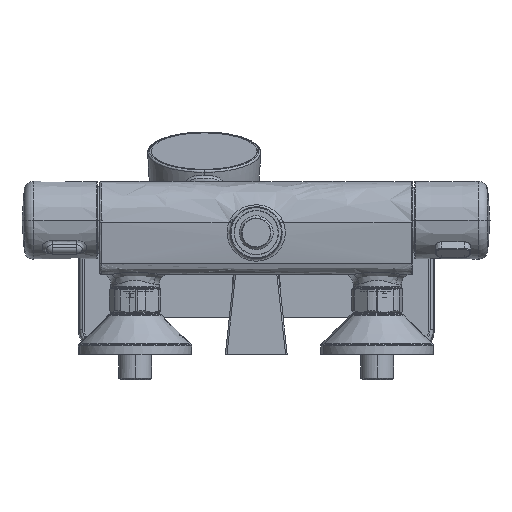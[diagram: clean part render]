
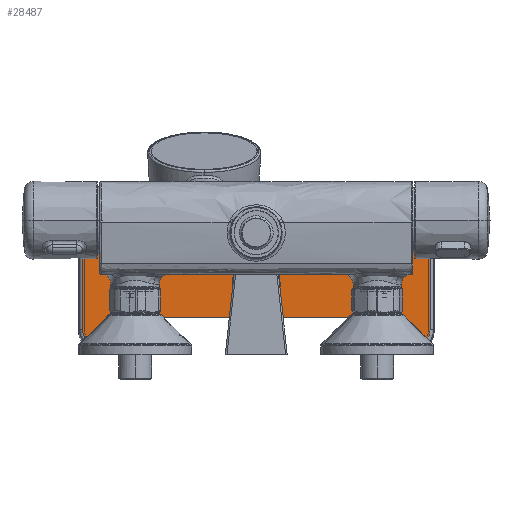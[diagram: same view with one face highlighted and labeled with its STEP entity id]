
A CAD part, front view. The second image highlights one B-rep face of the part: STEP entity #28487.
In plain terms, the highlighted planar face has unit normal (0, -1, 0).
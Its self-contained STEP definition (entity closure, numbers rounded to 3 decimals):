
#72 = VERTEX_POINT ( 'NONE', #19283 ) ;
#150 = DIRECTION ( 'NONE',  ( 0., 0., 1. ) ) ;
#531 = LINE ( 'NONE', #19921, #11348 ) ;
#1433 = VECTOR ( 'NONE', #5516, 1000. ) ;
#1850 = CARTESIAN_POINT ( 'NONE',  ( 460.129, 259.185, -22.505 ) ) ;
#1940 = EDGE_CURVE ( 'NONE', #7709, #11855, #2901, .T. ) ;
#2287 = CARTESIAN_POINT ( 'NONE',  ( 465.099, 259.185, 52.106 ) ) ;
#2572 = LINE ( 'NONE', #13059, #14103 ) ;
#2610 = LINE ( 'NONE', #7628, #5150 ) ;
#2844 = ORIENTED_EDGE ( 'NONE', *, *, #20068, .T. ) ;
#2901 = LINE ( 'NONE', #24344, #27702 ) ;
#3254 = CARTESIAN_POINT ( 'NONE',  ( 261.98, 259.185, 64.104 ) ) ;
#3982 = CARTESIAN_POINT ( 'NONE',  ( 453.101, 259.185, -22.505 ) ) ;
#3999 = CARTESIAN_POINT ( 'NONE',  ( 249.982, 259.185, -25.513 ) ) ;
#4199 = CARTESIAN_POINT ( 'NONE',  ( 261.98, 259.185, -22.505 ) ) ;
#4334 = ORIENTED_EDGE ( 'NONE', *, *, #20610, .T. ) ;
#4712 = CARTESIAN_POINT ( 'NONE',  ( 439.772, 259.185, -10.478 ) ) ;
#5024 = DIRECTION ( 'NONE',  ( 1., 0., 0. ) ) ;
#5150 = VECTOR ( 'NONE', #28643, 1000. ) ;
#5211 = ORIENTED_EDGE ( 'NONE', *, *, #21681, .T. ) ;
#5516 = DIRECTION ( 'NONE',  ( 0., 0., 1. ) ) ;
#5678 = ORIENTED_EDGE ( 'NONE', *, *, #7140, .T. ) ;
#6093 = CIRCLE ( 'NONE', #6314, 7. ) ;
#6136 = DIRECTION ( 'NONE',  ( -1., 0., 0. ) ) ;
#6314 = AXIS2_PLACEMENT_3D ( 'NONE', #28580, #26369, #12602 ) ;
#6518 = CARTESIAN_POINT ( 'NONE',  ( 432.772, 259.185, -3.478 ) ) ;
#7012 = CARTESIAN_POINT ( 'NONE',  ( 282.132, 259.185, -10.478 ) ) ;
#7140 = EDGE_CURVE ( 'NONE', #11855, #14238, #23204, .T. ) ;
#7288 = VECTOR ( 'NONE', #5024, 1000. ) ;
#7518 = VERTEX_POINT ( 'NONE', #28599 ) ;
#7628 = CARTESIAN_POINT ( 'NONE',  ( 439.772, 259.185, -25.513 ) ) ;
#7709 = VERTEX_POINT ( 'NONE', #15243 ) ;
#8005 = ORIENTED_EDGE ( 'NONE', *, *, #10261, .T. ) ;
#8071 =( BOUNDED_CURVE ( )  B_SPLINE_CURVE ( 3, ( #3254, #9917, #12314, #28383 ),
 .UNSPECIFIED., .F., .T. ) 
 B_SPLINE_CURVE_WITH_KNOTS ( ( 4, 4 ),
 ( 2.356, 3.927 ),
 .UNSPECIFIED. ) 
 CURVE ( )  GEOMETRIC_REPRESENTATION_ITEM ( )  RATIONAL_B_SPLINE_CURVE ( ( 1., 0.805, 0.805, 1. ) ) 
 REPRESENTATION_ITEM ( '' )  );
#8359 = ORIENTED_EDGE ( 'NONE', *, *, #23302, .T. ) ;
#8470 = DIRECTION ( 'NONE',  ( 0., 1., 0. ) ) ;
#8593 = FACE_OUTER_BOUND ( 'NONE', #27018, .T. ) ;
#9270 = EDGE_CURVE ( 'NONE', #19687, #20592, #22507, .T. ) ;
#9334 = DIRECTION ( 'NONE',  ( 0., 1., 0. ) ) ;
#9917 = CARTESIAN_POINT ( 'NONE',  ( 254.951, 259.185, 64.104 ) ) ;
#10261 = EDGE_CURVE ( 'NONE', #14238, #28359, #531, .T. ) ;
#10313 = CARTESIAN_POINT ( 'NONE',  ( 249.982, 259.185, -10.507 ) ) ;
#10957 = ORIENTED_EDGE ( 'NONE', *, *, #1940, .T. ) ;
#11181 = CARTESIAN_POINT ( 'NONE',  ( 453.101, 259.185, 64.104 ) ) ;
#11231 = LINE ( 'NONE', #24166, #17348 ) ;
#11348 = VECTOR ( 'NONE', #6136, 1000. ) ;
#11412 = ORIENTED_EDGE ( 'NONE', *, *, #28920, .T. ) ;
#11855 = VERTEX_POINT ( 'NONE', #2287 ) ;
#12314 = CARTESIAN_POINT ( 'NONE',  ( 249.982, 259.185, 59.135 ) ) ;
#12602 = DIRECTION ( 'NONE',  ( 0., 0., 1. ) ) ;
#12823 = DIRECTION ( 'NONE',  ( 1., 0., 0. ) ) ;
#13059 = CARTESIAN_POINT ( 'NONE',  ( 357.452, 259.185, -22.505 ) ) ;
#13276 = VERTEX_POINT ( 'NONE', #28071 ) ;
#14103 = VECTOR ( 'NONE', #15586, 1000. ) ;
#14238 = VERTEX_POINT ( 'NONE', #25983 ) ;
#14365 = ORIENTED_EDGE ( 'NONE', *, *, #19618, .T. ) ;
#14589 = CARTESIAN_POINT ( 'NONE',  ( 249.982, 259.185, 52.106 ) ) ;
#15243 = CARTESIAN_POINT ( 'NONE',  ( 465.099, 259.185, -10.507 ) ) ;
#15411 = DIRECTION ( 'NONE',  ( 0., 0., 1. ) ) ;
#15586 = DIRECTION ( 'NONE',  ( 1., 0., 0. ) ) ;
#15759 = CARTESIAN_POINT ( 'NONE',  ( 465.099, 259.185, -17.536 ) ) ;
#16343 = ORIENTED_EDGE ( 'NONE', *, *, #27387, .T. ) ;
#16393 = AXIS2_PLACEMENT_3D ( 'NONE', #29152, #8470, #15411 ) ;
#16820 = EDGE_CURVE ( 'NONE', #29766, #72, #2572, .T. ) ;
#17348 = VECTOR ( 'NONE', #12823, 1000. ) ;
#18291 = VERTEX_POINT ( 'NONE', #23869 ) ;
#18324 = AXIS2_PLACEMENT_3D ( 'NONE', #7012, #9334, #150 ) ;
#19163 = VERTEX_POINT ( 'NONE', #6518 ) ;
#19246 = CARTESIAN_POINT ( 'NONE',  ( 261.98, 259.185, -22.505 ) ) ;
#19283 = CARTESIAN_POINT ( 'NONE',  ( 453.101, 259.185, -22.505 ) ) ;
#19618 = EDGE_CURVE ( 'NONE', #22202, #29766, #2610, .T. ) ;
#19687 = VERTEX_POINT ( 'NONE', #14589 ) ;
#19921 = CARTESIAN_POINT ( 'NONE',  ( 357.452, 259.185, 64.104 ) ) ;
#20013 = CARTESIAN_POINT ( 'NONE',  ( 261.98, 259.185, 64.104 ) ) ;
#20068 = EDGE_CURVE ( 'NONE', #20469, #13276, #24564, .T. ) ;
#20075 = CARTESIAN_POINT ( 'NONE',  ( 254.951, 259.185, -22.505 ) ) ;
#20076 = DIRECTION ( 'NONE',  ( 0., 0., -1. ) ) ;
#20206 =( BOUNDED_CURVE ( )  B_SPLINE_CURVE ( 3, ( #29412, #24798, #20075, #4199 ),
 .UNSPECIFIED., .F., .F. ) 
 B_SPLINE_CURVE_WITH_KNOTS ( ( 4, 4 ),
 ( 2.356, 3.927 ),
 .UNSPECIFIED. ) 
 CURVE ( )  GEOMETRIC_REPRESENTATION_ITEM ( )  RATIONAL_B_SPLINE_CURVE ( ( 1., 0.805, 0.805, 1. ) ) 
 REPRESENTATION_ITEM ( '' )  );
#20212 = CARTESIAN_POINT ( 'NONE',  ( 439.772, 259.185, -22.505 ) ) ;
#20214 = CARTESIAN_POINT ( 'NONE',  ( 460.129, 259.185, 64.104 ) ) ;
#20469 = VERTEX_POINT ( 'NONE', #19246 ) ;
#20592 = VERTEX_POINT ( 'NONE', #10313 ) ;
#20610 = EDGE_CURVE ( 'NONE', #7518, #19163, #11231, .T. ) ;
#20870 = CIRCLE ( 'NONE', #18324, 7. ) ;
#21185 = CARTESIAN_POINT ( 'NONE',  ( 357.452, 259.185, -22.505 ) ) ;
#21579 = CARTESIAN_POINT ( 'NONE',  ( 275.132, 259.185, -25.513 ) ) ;
#21681 = EDGE_CURVE ( 'NONE', #28359, #19687, #8071, .T. ) ;
#21683 = ORIENTED_EDGE ( 'NONE', *, *, #23496, .T. ) ;
#22202 = VERTEX_POINT ( 'NONE', #4712 ) ;
#22239 = EDGE_CURVE ( 'NONE', #18291, #7518, #20870, .T. ) ;
#22472 = CARTESIAN_POINT ( 'NONE',  ( 465.099, 259.185, -10.507 ) ) ;
#22507 = LINE ( 'NONE', #3999, #26102 ) ;
#23204 =( BOUNDED_CURVE ( )  B_SPLINE_CURVE ( 3, ( #24953, #29461, #20214, #11181 ),
 .UNSPECIFIED., .F., .T. ) 
 B_SPLINE_CURVE_WITH_KNOTS ( ( 4, 4 ),
 ( 2.356, 3.927 ),
 .UNSPECIFIED. ) 
 CURVE ( )  GEOMETRIC_REPRESENTATION_ITEM ( )  RATIONAL_B_SPLINE_CURVE ( ( 1., 0.805, 0.805, 1. ) ) 
 REPRESENTATION_ITEM ( '' )  );
#23302 = EDGE_CURVE ( 'NONE', #13276, #18291, #26639, .T. ) ;
#23496 = EDGE_CURVE ( 'NONE', #20592, #20469, #20206, .T. ) ;
#23869 = CARTESIAN_POINT ( 'NONE',  ( 275.132, 259.185, -10.478 ) ) ;
#24166 = CARTESIAN_POINT ( 'NONE',  ( 357.452, 259.185, -3.478 ) ) ;
#24344 = CARTESIAN_POINT ( 'NONE',  ( 465.099, 259.185, -25.513 ) ) ;
#24564 = LINE ( 'NONE', #21185, #7288 ) ;
#24798 = CARTESIAN_POINT ( 'NONE',  ( 249.982, 259.185, -17.536 ) ) ;
#24953 = CARTESIAN_POINT ( 'NONE',  ( 465.099, 259.185, 52.106 ) ) ;
#25614 = ORIENTED_EDGE ( 'NONE', *, *, #22239, .T. ) ;
#25975 = ORIENTED_EDGE ( 'NONE', *, *, #16820, .T. ) ;
#25983 = CARTESIAN_POINT ( 'NONE',  ( 453.101, 259.185, 64.104 ) ) ;
#26102 = VECTOR ( 'NONE', #20076, 1000. ) ;
#26369 = DIRECTION ( 'NONE',  ( 0., 1., 0. ) ) ;
#26639 = LINE ( 'NONE', #21579, #1433 ) ;
#27018 = EDGE_LOOP ( 'NONE', ( #21683, #2844, #8359, #25614, #4334, #16343, #14365, #25975, #11412, #10957, #5678, #8005, #5211, #27845 ) ) ;
#27387 = EDGE_CURVE ( 'NONE', #19163, #22202, #6093, .T. ) ;
#27548 =( BOUNDED_CURVE ( )  B_SPLINE_CURVE ( 3, ( #3982, #1850, #15759, #22472 ),
 .UNSPECIFIED., .F., .F. ) 
 B_SPLINE_CURVE_WITH_KNOTS ( ( 4, 4 ),
 ( 2.356, 3.927 ),
 .UNSPECIFIED. ) 
 CURVE ( )  GEOMETRIC_REPRESENTATION_ITEM ( )  RATIONAL_B_SPLINE_CURVE ( ( 1., 0.805, 0.805, 1. ) ) 
 REPRESENTATION_ITEM ( '' )  );
#27702 = VECTOR ( 'NONE', #28960, 1000. ) ;
#27845 = ORIENTED_EDGE ( 'NONE', *, *, #9270, .T. ) ;
#28071 = CARTESIAN_POINT ( 'NONE',  ( 275.132, 259.185, -22.505 ) ) ;
#28359 = VERTEX_POINT ( 'NONE', #20013 ) ;
#28383 = CARTESIAN_POINT ( 'NONE',  ( 249.982, 259.185, 52.106 ) ) ;
#28487 = ADVANCED_FACE ( 'NONE', ( #8593 ), #29448, .F. ) ;
#28580 = CARTESIAN_POINT ( 'NONE',  ( 432.772, 259.185, -10.478 ) ) ;
#28599 = CARTESIAN_POINT ( 'NONE',  ( 282.132, 259.185, -3.478 ) ) ;
#28643 = DIRECTION ( 'NONE',  ( 0., 0., -1. ) ) ;
#28920 = EDGE_CURVE ( 'NONE', #72, #7709, #27548, .T. ) ;
#28960 = DIRECTION ( 'NONE',  ( 0., 0., 1. ) ) ;
#29152 = CARTESIAN_POINT ( 'NONE',  ( 357.452, 259.185, -25.513 ) ) ;
#29412 = CARTESIAN_POINT ( 'NONE',  ( 249.982, 259.185, -10.507 ) ) ;
#29448 = PLANE ( 'NONE',  #16393 ) ;
#29461 = CARTESIAN_POINT ( 'NONE',  ( 465.099, 259.185, 59.135 ) ) ;
#29766 = VERTEX_POINT ( 'NONE', #20212 ) ;
